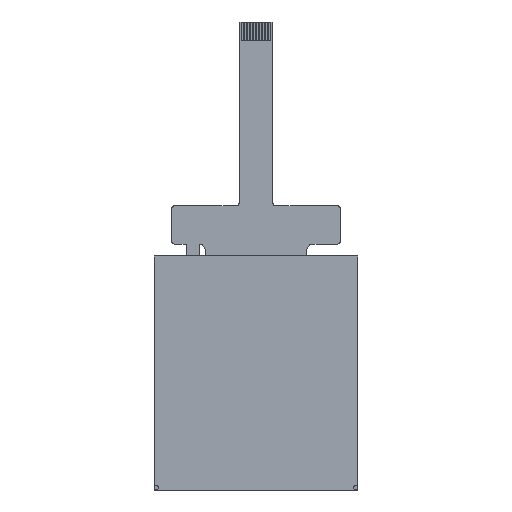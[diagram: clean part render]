
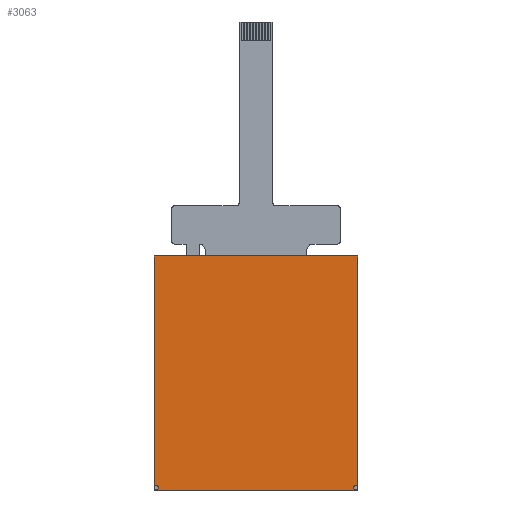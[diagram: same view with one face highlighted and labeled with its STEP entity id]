
A CAD part, front view. The second image highlights one B-rep face of the part: STEP entity #3063.
In plain terms, the highlighted planar face has unit normal (0, -1, 0).
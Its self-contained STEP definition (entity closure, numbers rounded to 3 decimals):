
#12 = CARTESIAN_POINT ( 'NONE',  ( -16.65, -0.01, -18.75 ) ) ;
#304 = DIRECTION ( 'NONE',  ( 0., 0., 1. ) ) ;
#462 = CARTESIAN_POINT ( 'NONE',  ( 16.65, -0.01, 19.1 ) ) ;
#557 = PLANE ( 'NONE',  #2438 ) ;
#671 = VECTOR ( 'NONE', #304, 1000. ) ;
#677 = CARTESIAN_POINT ( 'NONE',  ( -16.3, -0.01, -18.75 ) ) ;
#719 = CARTESIAN_POINT ( 'NONE',  ( 16.65, -0.01, 19.1 ) ) ;
#755 = VECTOR ( 'NONE', #5864, 1000. ) ;
#812 = CARTESIAN_POINT ( 'NONE',  ( -16.3, -0.01, -19.1 ) ) ;
#932 = FACE_OUTER_BOUND ( 'NONE', #1492, .T. ) ;
#1007 = EDGE_CURVE ( 'NONE', #3332, #2874, #2504, .T. ) ;
#1097 = CARTESIAN_POINT ( 'NONE',  ( -16.65, -0.01, -19.1 ) ) ;
#1099 = ORIENTED_EDGE ( 'NONE', *, *, #5644, .T. ) ;
#1140 = CARTESIAN_POINT ( 'NONE',  ( -16.65, -0.01, 19.1 ) ) ;
#1217 = DIRECTION ( 'NONE',  ( 0., 0., -1. ) ) ;
#1275 = CARTESIAN_POINT ( 'NONE',  ( 16.3, -0.01, -18.75 ) ) ;
#1377 = CARTESIAN_POINT ( 'NONE',  ( -16.65, -0.01, 19.1 ) ) ;
#1401 = CIRCLE ( 'NONE', #5206, 0.35 ) ;
#1486 = EDGE_CURVE ( 'NONE', #2302, #1948, #2430, .T. ) ;
#1492 = EDGE_LOOP ( 'NONE', ( #3511, #2671, #2165, #1099, #5875, #3949, #3561, #2094 ) ) ;
#1593 = CARTESIAN_POINT ( 'NONE',  ( -16.3, -0.01, -18.75 ) ) ;
#1829 = EDGE_CURVE ( 'NONE', #2158, #2983, #4453, .T. ) ;
#1948 = VERTEX_POINT ( 'NONE', #812 ) ;
#1998 = DIRECTION ( 'NONE',  ( 1., 0., 0. ) ) ;
#2094 = ORIENTED_EDGE ( 'NONE', *, *, #3809, .T. ) ;
#2158 = VERTEX_POINT ( 'NONE', #5931 ) ;
#2165 = ORIENTED_EDGE ( 'NONE', *, *, #1486, .T. ) ;
#2193 = DIRECTION ( 'NONE',  ( 0., -1., 0. ) ) ;
#2268 = DIRECTION ( 'NONE',  ( 0., 0., -1. ) ) ;
#2302 = VERTEX_POINT ( 'NONE', #5401 ) ;
#2381 = LINE ( 'NONE', #1097, #4039 ) ;
#2416 = DIRECTION ( 'NONE',  ( 0., -1., 0. ) ) ;
#2430 = CIRCLE ( 'NONE', #4279, 0.35 ) ;
#2438 = AXIS2_PLACEMENT_3D ( 'NONE', #3309, #2416, #5527 ) ;
#2467 = DIRECTION ( 'NONE',  ( 0., 0., -1. ) ) ;
#2504 = LINE ( 'NONE', #3948, #3935 ) ;
#2671 = ORIENTED_EDGE ( 'NONE', *, *, #3280, .T. ) ;
#2874 = VERTEX_POINT ( 'NONE', #12 ) ;
#2936 = DIRECTION ( 'NONE',  ( 0., -1., 0. ) ) ;
#2983 = VERTEX_POINT ( 'NONE', #462 ) ;
#2986 = CARTESIAN_POINT ( 'NONE',  ( 16.3, -0.01, -18.4 ) ) ;
#3063 = ADVANCED_FACE ( 'NONE', ( #932 ), #557, .T. ) ;
#3280 = EDGE_CURVE ( 'NONE', #2874, #2302, #4319, .T. ) ;
#3309 = CARTESIAN_POINT ( 'NONE',  ( 0., -0.01, 0. ) ) ;
#3332 = VERTEX_POINT ( 'NONE', #1140 ) ;
#3348 = DIRECTION ( 'NONE',  ( 0., 1., 0. ) ) ;
#3360 = VERTEX_POINT ( 'NONE', #2986 ) ;
#3511 = ORIENTED_EDGE ( 'NONE', *, *, #1007, .T. ) ;
#3561 = ORIENTED_EDGE ( 'NONE', *, *, #1829, .T. ) ;
#3584 = EDGE_CURVE ( 'NONE', #2158, #3360, #5380, .T. ) ;
#3674 = LINE ( 'NONE', #1377, #755 ) ;
#3707 = AXIS2_PLACEMENT_3D ( 'NONE', #5660, #2936, #2467 ) ;
#3809 = EDGE_CURVE ( 'NONE', #2983, #3332, #3674, .T. ) ;
#3919 = DIRECTION ( 'NONE',  ( 0., 0., -1. ) ) ;
#3935 = VECTOR ( 'NONE', #3919, 1000. ) ;
#3948 = CARTESIAN_POINT ( 'NONE',  ( -16.65, -0.01, 19.1 ) ) ;
#3949 = ORIENTED_EDGE ( 'NONE', *, *, #3584, .F. ) ;
#4039 = VECTOR ( 'NONE', #1998, 1000. ) ;
#4074 = VERTEX_POINT ( 'NONE', #5646 ) ;
#4137 = AXIS2_PLACEMENT_3D ( 'NONE', #677, #5305, #1217 ) ;
#4279 = AXIS2_PLACEMENT_3D ( 'NONE', #1593, #3348, #5168 ) ;
#4319 = CIRCLE ( 'NONE', #4137, 0.35 ) ;
#4453 = LINE ( 'NONE', #719, #671 ) ;
#4521 = EDGE_CURVE ( 'NONE', #3360, #4074, #1401, .T. ) ;
#5168 = DIRECTION ( 'NONE',  ( 0., 0., -1. ) ) ;
#5206 = AXIS2_PLACEMENT_3D ( 'NONE', #1275, #2193, #2268 ) ;
#5305 = DIRECTION ( 'NONE',  ( 0., 1., 0. ) ) ;
#5380 = CIRCLE ( 'NONE', #3707, 0.35 ) ;
#5401 = CARTESIAN_POINT ( 'NONE',  ( -16.3, -0.01, -18.4 ) ) ;
#5527 = DIRECTION ( 'NONE',  ( 0., 0., -1. ) ) ;
#5644 = EDGE_CURVE ( 'NONE', #1948, #4074, #2381, .T. ) ;
#5646 = CARTESIAN_POINT ( 'NONE',  ( 16.3, -0.01, -19.1 ) ) ;
#5660 = CARTESIAN_POINT ( 'NONE',  ( 16.3, -0.01, -18.75 ) ) ;
#5864 = DIRECTION ( 'NONE',  ( -1., 0., 0. ) ) ;
#5875 = ORIENTED_EDGE ( 'NONE', *, *, #4521, .F. ) ;
#5931 = CARTESIAN_POINT ( 'NONE',  ( 16.65, -0.01, -18.75 ) ) ;
